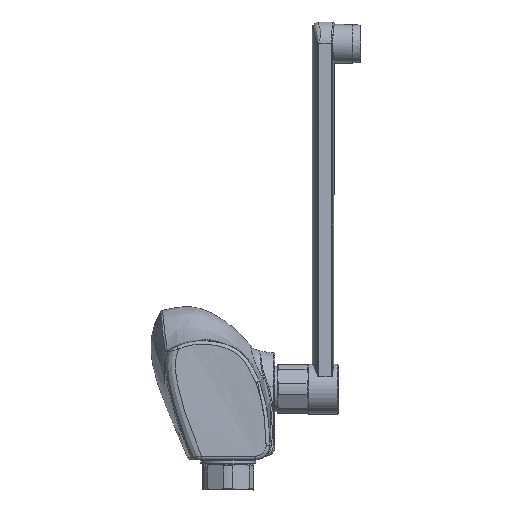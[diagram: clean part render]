
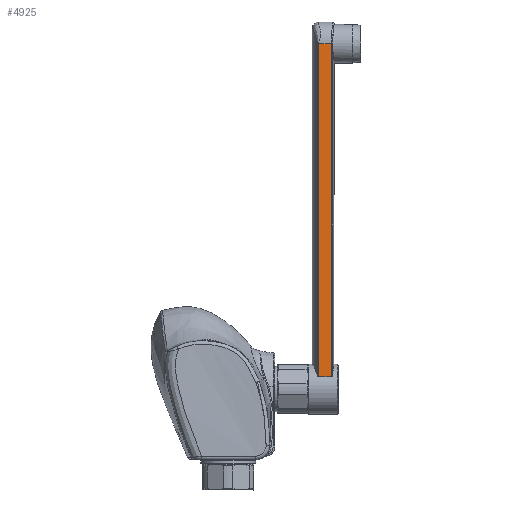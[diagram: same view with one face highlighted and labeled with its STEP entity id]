
A CAD part, left-side view. The second image highlights one B-rep face of the part: STEP entity #4925.
In plain terms, the highlighted planar face has unit normal (-1, 0, 0).
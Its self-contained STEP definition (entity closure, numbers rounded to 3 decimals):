
#992 = CARTESIAN_POINT ( 'NONE',  ( -12.65, -51.867, 129.739 ) ) ;
#1486 = ORIENTED_EDGE ( 'NONE', *, *, #15160, .T. ) ;
#1764 = CARTESIAN_POINT ( 'NONE',  ( -12.65, -51.478, 271.564 ) ) ;
#1902 = AXIS2_PLACEMENT_3D ( 'NONE', #1764, #6719, #17768 ) ;
#1940 = EDGE_CURVE ( 'NONE', #10089, #18871, #8590, .T. ) ;
#2471 = EDGE_CURVE ( 'NONE', #17926, #2656, #7836, .T. ) ;
#2656 = VERTEX_POINT ( 'NONE', #20432 ) ;
#4048 = EDGE_LOOP ( 'NONE', ( #20324, #1486, #4774, #17434 ) ) ;
#4774 = ORIENTED_EDGE ( 'NONE', *, *, #2471, .F. ) ;
#4925 = ADVANCED_FACE ( 'NONE', ( #20247 ), #5056, .T. ) ;
#5056 = PLANE ( 'NONE',  #1902 ) ;
#5441 = CARTESIAN_POINT ( 'NONE',  ( -12.65, -59.303, 65.149 ) ) ;
#6719 = DIRECTION ( 'NONE',  ( -1., 0., 0. ) ) ;
#7384 = CARTESIAN_POINT ( 'NONE',  ( -12.65, 107.428, 258.947 ) ) ;
#7575 = VECTOR ( 'NONE', #16906, 1000. ) ;
#7836 = LINE ( 'NONE', #7384, #7575 ) ;
#7997 = CARTESIAN_POINT ( 'NONE',  ( -12.65, -51.895, 258.914 ) ) ;
#8590 = LINE ( 'NONE', #19556, #17916 ) ;
#8606 = DIRECTION ( 'NONE',  ( 0., 1., 0. ) ) ;
#9156 = CARTESIAN_POINT ( 'NONE',  ( -12.65, -51.881, 194.326 ) ) ;
#10089 = VERTEX_POINT ( 'NONE', #5441 ) ;
#11908 = EDGE_CURVE ( 'NONE', #17926, #18871, #20524, .T. ) ;
#12404 = CARTESIAN_POINT ( 'NONE',  ( -12.65, -51.854, 65.151 ) ) ;
#15160 = EDGE_CURVE ( 'NONE', #10089, #2656, #18406, .T. ) ;
#15194 = CARTESIAN_POINT ( 'NONE',  ( -12.65, -59.347, 271.562 ) ) ;
#15422 = CARTESIAN_POINT ( 'NONE',  ( -12.65, -51.895, 258.914 ) ) ;
#16906 = DIRECTION ( 'NONE',  ( 0., -1., 0. ) ) ;
#17434 = ORIENTED_EDGE ( 'NONE', *, *, #11908, .T. ) ;
#17768 = DIRECTION ( 'NONE',  ( 0., 1., 0. ) ) ;
#17916 = VECTOR ( 'NONE', #8606, 1000. ) ;
#17926 = VERTEX_POINT ( 'NONE', #7997 ) ;
#18406 = LINE ( 'NONE', #15194, #19624 ) ;
#18871 = VERTEX_POINT ( 'NONE', #20136 ) ;
#19556 = CARTESIAN_POINT ( 'NONE',  ( -12.65, -32.231, 65.155 ) ) ;
#19624 = VECTOR ( 'NONE', #19979, 1000. ) ;
#19979 = DIRECTION ( 'NONE',  ( 0., 0., 1. ) ) ;
#20136 = CARTESIAN_POINT ( 'NONE',  ( -12.65, -51.854, 65.151 ) ) ;
#20247 = FACE_OUTER_BOUND ( 'NONE', #4048, .T. ) ;
#20324 = ORIENTED_EDGE ( 'NONE', *, *, #1940, .F. ) ;
#20432 = CARTESIAN_POINT ( 'NONE',  ( -12.65, -59.344, 258.912 ) ) ;
#20524 = B_SPLINE_CURVE_WITH_KNOTS ( 'NONE', 3,
 ( #15422, #9156, #992, #12404 ),
 .UNSPECIFIED., .F., .F.,
 ( 4, 4 ),
 ( 0., 0.659 ),
 .UNSPECIFIED. ) ;
